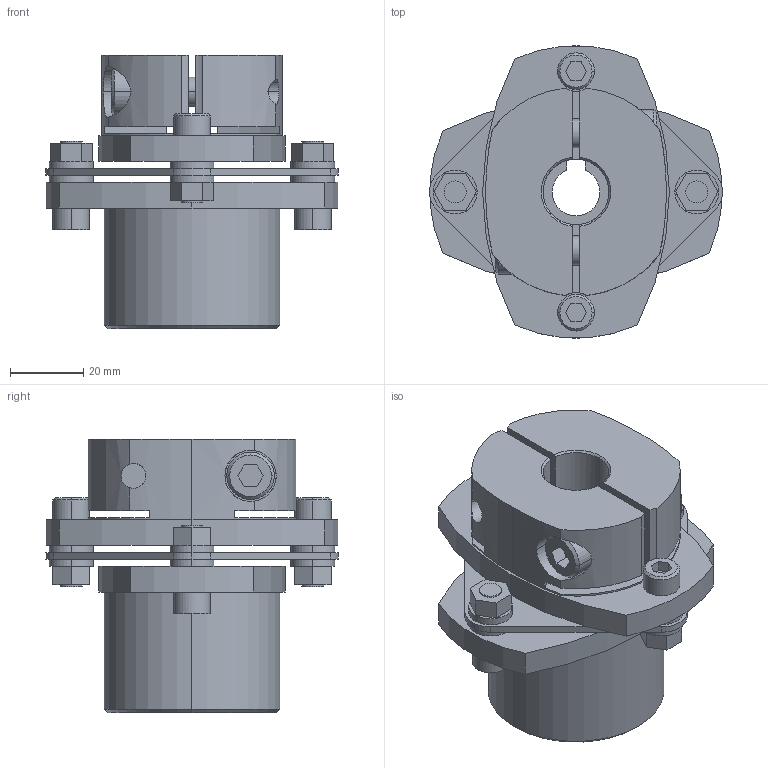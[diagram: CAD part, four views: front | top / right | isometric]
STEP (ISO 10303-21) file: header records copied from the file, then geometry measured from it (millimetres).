
FILE_DESCRIPTION((''),'2;1');
FILE_NAME('LCS-80M-16L亊18B.stp','2011-08-20T16:11:34',(''),(''),'AutoCAD STEP 2000i','AutoCAD 2000i',', , ');
FILE_SCHEMA(('CONFIG_CONTROL_DESIGN'));
Length unit declared in the file: millimetre
Products named in the file (6): LCS-80M-16L×15B; 忣兜1; LC80M-L016; LC80-B015-1; LC80-B015; LCS80-ITA
Assembly tree (5 placements, depth 2):
  LCS-80M-16L×15B
    忣兜1
    LC80M-L016
    LC80-B015-1
    LC80-B015
    LCS80-ITA
Bounding box: 80 x 79.95 x 74.75 mm (x, y, z)
Volume: 145329.4 mm3; surface area: 42060.4 mm2
Topology: 1 solids, 1 shells, 230 faces, 580 edges, 382 vertices
Faces by surface type: plane 115, cylinder 96, cone 19
Entity records: 7413 total; most frequent: CARTESIAN_POINT 1514, DIRECTION 1252, ORIENTED_EDGE 1160, EDGE_CURVE 580, AXIS2_PLACEMENT_3D 458, VERTEX_POINT 382, VECTOR 336, LINE 336
